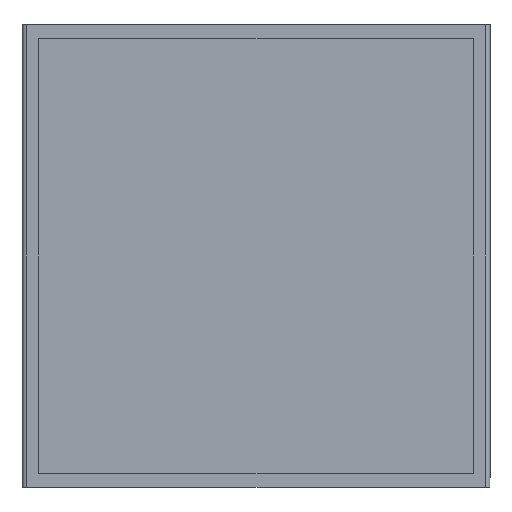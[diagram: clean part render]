
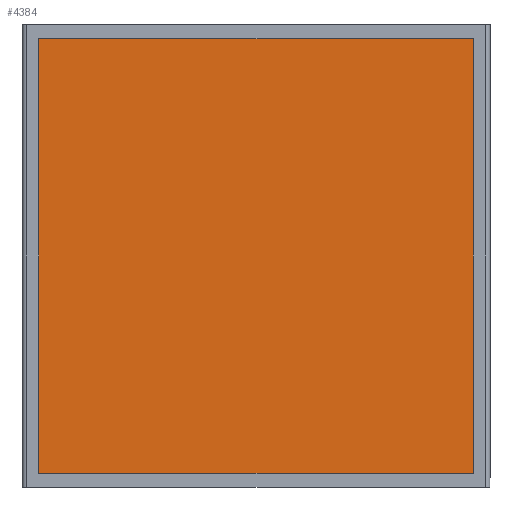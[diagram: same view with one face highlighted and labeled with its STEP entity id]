
A CAD part, front view. The second image highlights one B-rep face of the part: STEP entity #4384.
In plain terms, the highlighted planar face has unit normal (0, -1, 0).
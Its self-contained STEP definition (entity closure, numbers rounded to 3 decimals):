
#55 = DIRECTION ( 'NONE',  ( -1., 0., 0. ) ) ;
#100 = VECTOR ( 'NONE', #1499, 1000. ) ;
#222 = VECTOR ( 'NONE', #4601, 1000. ) ;
#459 = ORIENTED_EDGE ( 'NONE', *, *, #2368, .F. ) ;
#636 = DIRECTION ( 'NONE',  ( 0., 1., 0. ) ) ;
#926 = VERTEX_POINT ( 'NONE', #2785 ) ;
#1086 = LINE ( 'NONE', #2621, #1874 ) ;
#1136 = CARTESIAN_POINT ( 'NONE',  ( 15.228, -3.744, -10.991 ) ) ;
#1348 = EDGE_CURVE ( 'NONE', #2747, #2831, #3458, .T. ) ;
#1499 = DIRECTION ( 'NONE',  ( 0., 0., -1. ) ) ;
#1874 = VECTOR ( 'NONE', #4537, 1000. ) ;
#1931 = CARTESIAN_POINT ( 'NONE',  ( -7.772, -3.744, -10.991 ) ) ;
#2146 = FACE_OUTER_BOUND ( 'NONE', #3227, .T. ) ;
#2190 = ORIENTED_EDGE ( 'NONE', *, *, #4773, .F. ) ;
#2240 = LINE ( 'NONE', #4577, #222 ) ;
#2256 = CARTESIAN_POINT ( 'NONE',  ( -7.772, -3.744, 12.009 ) ) ;
#2333 = CARTESIAN_POINT ( 'NONE',  ( -7.772, -3.744, 12.009 ) ) ;
#2368 = EDGE_CURVE ( 'NONE', #2831, #2450, #2240, .T. ) ;
#2429 = AXIS2_PLACEMENT_3D ( 'NONE', #2256, #636, #4179 ) ;
#2450 = VERTEX_POINT ( 'NONE', #2333 ) ;
#2621 = CARTESIAN_POINT ( 'NONE',  ( -7.772, -3.744, 12.009 ) ) ;
#2747 = VERTEX_POINT ( 'NONE', #5000 ) ;
#2785 = CARTESIAN_POINT ( 'NONE',  ( 15.228, -3.744, 12.009 ) ) ;
#2831 = VERTEX_POINT ( 'NONE', #4185 ) ;
#3227 = EDGE_LOOP ( 'NONE', ( #459, #4771, #2190, #3813 ) ) ;
#3328 = PLANE ( 'NONE',  #2429 ) ;
#3427 = VECTOR ( 'NONE', #55, 1000. ) ;
#3458 = LINE ( 'NONE', #1931, #3427 ) ;
#3813 = ORIENTED_EDGE ( 'NONE', *, *, #4412, .F. ) ;
#4179 = DIRECTION ( 'NONE',  ( 0., 0., 1. ) ) ;
#4185 = CARTESIAN_POINT ( 'NONE',  ( -7.772, -3.744, -10.991 ) ) ;
#4384 = ADVANCED_FACE ( 'NONE', ( #2146 ), #3328, .F. ) ;
#4412 = EDGE_CURVE ( 'NONE', #2450, #926, #1086, .T. ) ;
#4537 = DIRECTION ( 'NONE',  ( 1., 0., 0. ) ) ;
#4577 = CARTESIAN_POINT ( 'NONE',  ( -7.772, -3.744, -10.991 ) ) ;
#4601 = DIRECTION ( 'NONE',  ( 0., 0., 1. ) ) ;
#4771 = ORIENTED_EDGE ( 'NONE', *, *, #1348, .F. ) ;
#4773 = EDGE_CURVE ( 'NONE', #926, #2747, #4992, .T. ) ;
#4992 = LINE ( 'NONE', #1136, #100 ) ;
#5000 = CARTESIAN_POINT ( 'NONE',  ( 15.228, -3.744, -10.991 ) ) ;
